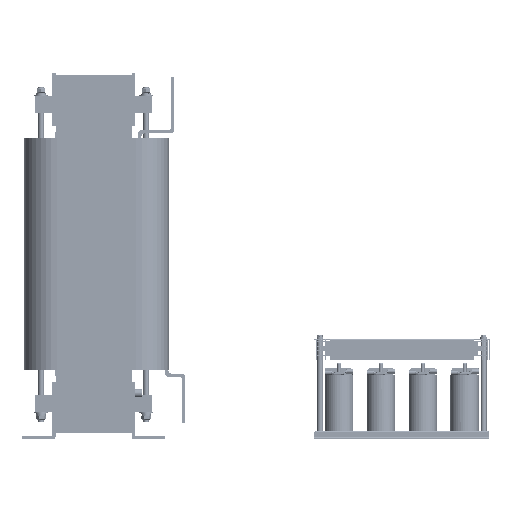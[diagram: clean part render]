
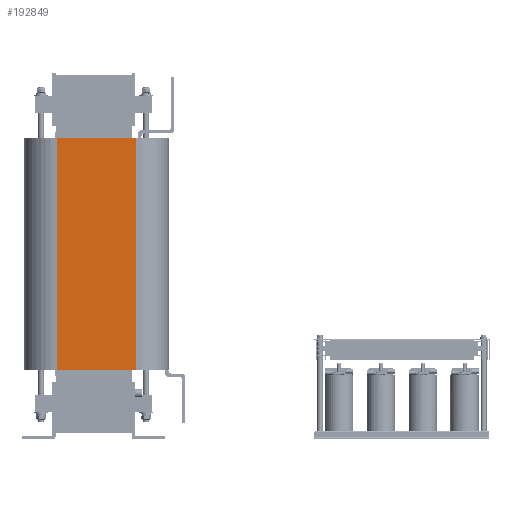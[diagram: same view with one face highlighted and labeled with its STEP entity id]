
A CAD part, left-side view. The second image highlights one B-rep face of the part: STEP entity #192849.
In plain terms, the highlighted planar face has unit normal (-1, 0, 0).
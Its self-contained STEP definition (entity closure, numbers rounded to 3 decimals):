
#15328=LINE('',#356496,#30039);
#16279=LINE('',#359410,#30990);
#16280=LINE('',#359413,#30991);
#16281=LINE('',#359414,#30992);
#30039=VECTOR('',#254559,10.);
#30990=VECTOR('',#257500,10.);
#30991=VECTOR('',#257503,10.);
#30992=VECTOR('',#257504,10.);
#51402=FACE_OUTER_BOUND('',#64342,.T.);
#64342=EDGE_LOOP('',(#166553,#166554,#166555,#166556));
#88646=VERTEX_POINT('',#356493);
#88647=VERTEX_POINT('',#356495);
#89615=VERTEX_POINT('',#359408);
#89616=VERTEX_POINT('',#359412);
#113990=EDGE_CURVE('',#88646,#88647,#15328,.T.);
#115452=EDGE_CURVE('',#89615,#88646,#16279,.T.);
#115453=EDGE_CURVE('',#88647,#89616,#16280,.T.);
#115454=EDGE_CURVE('',#89615,#89616,#16281,.T.);
#166553=ORIENTED_EDGE('',*,*,#115453,.F.);
#166554=ORIENTED_EDGE('',*,*,#113990,.F.);
#166555=ORIENTED_EDGE('',*,*,#115452,.F.);
#166556=ORIENTED_EDGE('',*,*,#115454,.T.);
#172233=PLANE('',#209568);
#192849=ADVANCED_FACE('',(#51402),#172233,.T.);
#209568=AXIS2_PLACEMENT_3D('',#359411,#257501,#257502);
#254559=DIRECTION('',(0.,1.,0.));
#257500=DIRECTION('',(0.,0.,-1.));
#257501=DIRECTION('center_axis',(-1.,0.,0.));
#257502=DIRECTION('ref_axis',(0.,0.,1.));
#257503=DIRECTION('',(0.,0.,1.));
#257504=DIRECTION('',(0.,1.,0.));
#356493=CARTESIAN_POINT('',(-454.697,-109.745,-297.854));
#356495=CARTESIAN_POINT('',(-454.697,99.255,-297.854));
#356496=CARTESIAN_POINT('',(-454.697,-194.745,-297.854));
#359408=CARTESIAN_POINT('',(-454.697,-109.745,312.146));
#359410=CARTESIAN_POINT('',(-454.697,-109.745,-297.854));
#359411=CARTESIAN_POINT('Origin',(-454.697,-194.745,-297.854));
#359412=CARTESIAN_POINT('',(-454.697,99.255,312.146));
#359413=CARTESIAN_POINT('',(-454.697,99.255,-297.854));
#359414=CARTESIAN_POINT('',(-454.697,-194.745,312.146));
